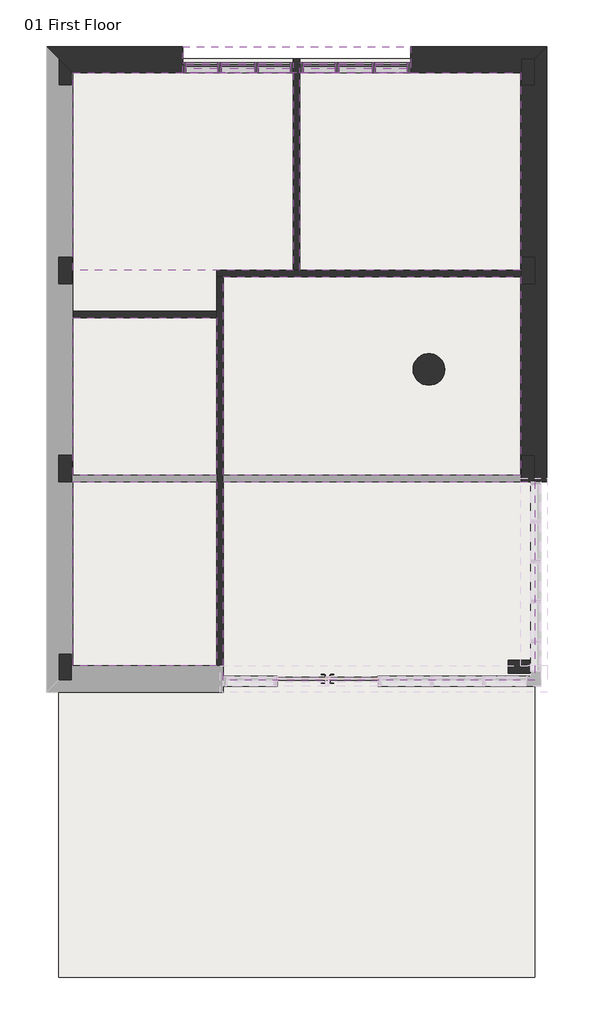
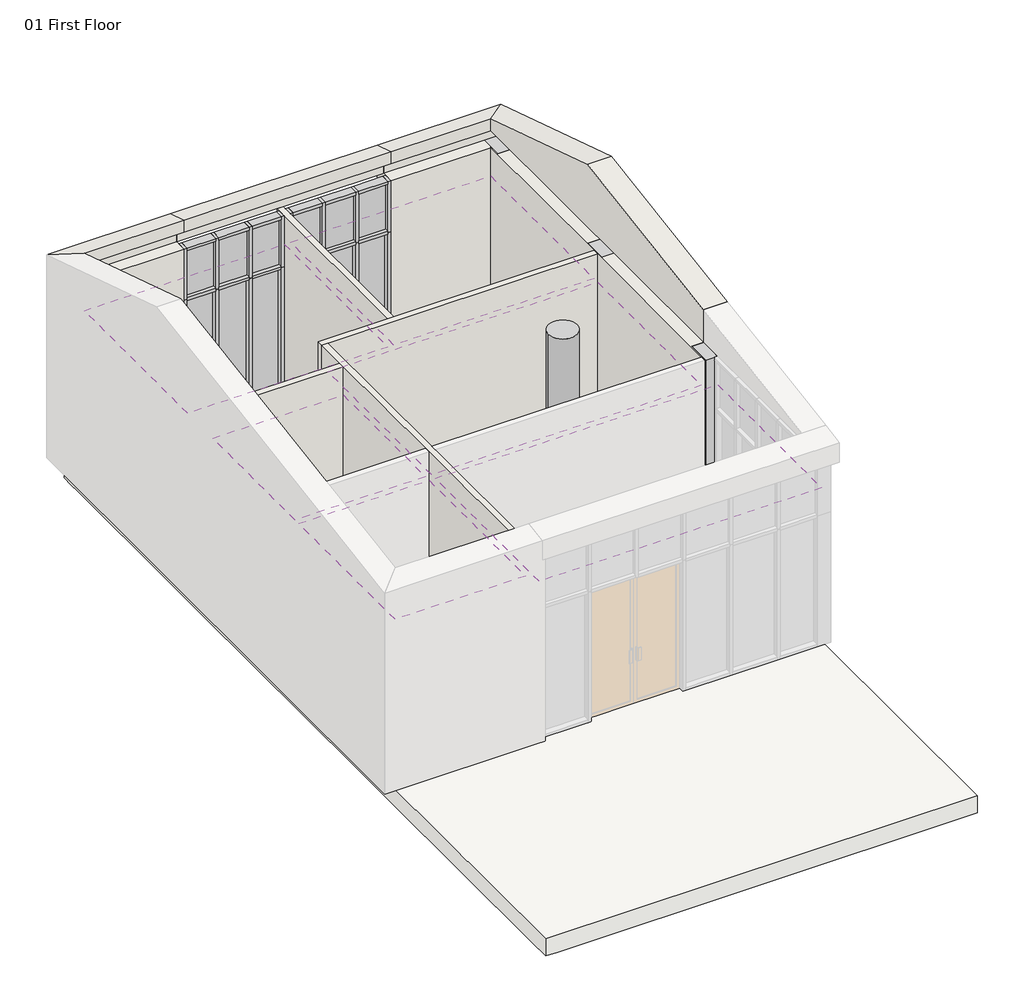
# One storey, part 2 of 2: 34 members, 12 plates, 9 columns, 8 walls, 6 coverings, 1 slab.
"""IFC4 building model written with IfcOpenShell, lengths in millimetres."""

from ifc_helpers import new_model, si_unit, point, frame, frame_2d, origin, place, context, project, spatial, polyline, circle_curve, trimmed, segment, composite_curve, outline, extrude, faceted_brep, transform, mapped, element, save
from components import rectangular_mullion_50_x_150mm_8753ce05, rectangular_mullion_50_x_150mm_f70f74d1, rectangular_mullion_50_x_150mm_d1e66009, rectangular_mullion_50_x_150mm_6b054e58, rectangular_mullion_50_x_150mm_158f91f9, rectangular_mullion_50_x_150mm_7e1a8c17, rectangular_mullion_50_x_150mm_3ddb3363, rectangular_mullion_50_x_150mm_35d6a770, system_panel_glazed_5d80e23d, system_panel_glazed_623b0429, system_panel_solid_e171d4ab, system_panel_solid_d5224606

model = new_model("IFC4")

# Units and contexts
model_context = context("Model", 3, world=origin())
ifc_project = project(units=[si_unit("LENGTHUNIT", "METRE", prefix="MILLI")], contexts=[model_context])

# Site, building, storey
site = spatial("IfcSite", under=ifc_project)
building = spatial("IfcBuilding", under=site)
storey = spatial("IfcBuildingStorey", under=building, Name="01 First Floor", Elevation=3500.0)

# Columns
placement = place(None, origin())
element("IfcColumn", 1, ObjectType="M_Concrete-Rectangular-Column : 200 x 325mm", at=placement, inside=storey, context=model_context, shape_type="SweptSolid", body=[
    extrude(outline(polyline([(-1522.5407999, -2762.7101648), (-1197.5407999, -2762.7101648), (-1197.5407999, -2962.7101648), (-1522.5407999, -2962.7101648), (-1522.5407999, -2762.7101648)])), frame((0.0, 0.0, 3500.0), z_axis=(0.0, 0.0, 1.0), x_axis=(1.0, 0.0, 0.0)), (0.0, 0.0, 1.0), 3200.0),
])
element("IfcColumn", 2, ObjectType="M_Concrete-Rectangular-Column : 200 x 400mm", at=placement, inside=storey, context=model_context, shape_type="Brep", body=[
    faceted_brep([(-8122.5407999, 6337.2898352, 3500.0), (-8122.5407999, 6137.2898352, 3500.0), (-8122.5407999, 5937.2898352, 3500.0), (-8322.5407999, 5937.2898352, 3500.0), (-8322.5407999, 6337.2898352, 3500.0), (-8122.5407999, 6337.2898352, 6700.0), (-8122.5407999, 6137.2898352, 6700.0), (-8122.5407999, 5937.2898352, 6700.0), (-8322.5407999, 5937.2898352, 6700.0), (-8322.5407999, 6337.2898352, 6700.0)], [[[0, 1, 2, 3, 4]], [[2, 1, 0, 5, 6, 7]], [[3, 2, 7, 8]], [[4, 3, 8, 9]], [[0, 4, 9, 5]], [[7, 6, 5, 9, 8]]]),
])
element("IfcColumn", 3, ObjectType="M_Concrete-Rectangular-Column : 200 x 400mm", at=placement, inside=storey, context=model_context, shape_type="SweptSolid", body=[
    extrude(outline(polyline([(-8122.5407999, 3337.2898352), (-8122.5407999, 2937.2898352), (-8322.5407999, 2937.2898352), (-8322.5407999, 3337.2898352), (-8122.5407999, 3337.2898352)])), frame((0.0, 0.0, 3500.0), z_axis=(0.0, 0.0, 1.0), x_axis=(1.0, 0.0, 0.0)), (0.0, 0.0, 1.0), 3200.0),
])
element("IfcColumn", 4, ObjectType="M_Concrete-Rectangular-Column : 200 x 400mm", at=placement, inside=storey, context=model_context, shape_type="SweptSolid", body=[
    extrude(outline(polyline([(-8122.5407999, 337.2898352), (-8122.5407999, -62.7101648), (-8322.5407999, -62.7101648), (-8322.5407999, 337.2898352), (-8122.5407999, 337.2898352)])), frame((0.0, 0.0, 3500.0), z_axis=(0.0, 0.0, 1.0), x_axis=(1.0, 0.0, 0.0)), (0.0, 0.0, 1.0), 3200.0),
])
element("IfcColumn", 5, ObjectType="M_Concrete-Rectangular-Column : 200 x 400mm", at=placement, inside=storey, context=model_context, shape_type="Brep", body=[
    faceted_brep([(-8122.5407999, -2662.7101648, 3500.0), (-8122.5407999, -2862.7101648, 3500.0), (-8122.5407999, -3062.7101648, 3500.0), (-8322.5407999, -3062.7101648, 3500.0), (-8322.5407999, -2662.7101648, 3500.0), (-8122.5407999, -2662.7101648, 6700.0), (-8122.5407999, -2862.7101648, 6700.0), (-8122.5407999, -3062.7101648, 6700.0), (-8322.5407999, -3062.7101648, 6700.0), (-8322.5407999, -2662.7101648, 6700.0)], [[[0, 1, 2, 3, 4]], [[2, 1, 0, 5, 6, 7]], [[3, 2, 7, 8]], [[4, 3, 8, 9]], [[0, 4, 9, 5]], [[7, 6, 5, 9, 8]]]),
])
element("IfcColumn", 6, ObjectType="M_Concrete-Rectangular-Column : 200 x 400mm", at=placement, inside=storey, context=model_context, shape_type="Brep", body=[
    faceted_brep([(-1122.5407999, 337.2898352, 3500.0), (-1122.5407999, -62.7101648, 3500.0), (-1322.5407999, -62.7101648, 3500.0), (-1322.5407999, 337.2898352, 3500.0), (-1122.5407999, 337.2898352, 6700.0), (-1122.5407999, -12.7101648, 6700.0), (-1122.5407999, -62.7101648, 6700.0), (-1322.5407999, -62.7101648, 6700.0), (-1322.5407999, 337.2898352, 6700.0)], [[[0, 1, 2, 3]], [[1, 0, 4, 5, 6]], [[2, 1, 6, 7]], [[3, 2, 7, 8]], [[0, 3, 8, 4]], [[6, 5, 4, 8, 7]]]),
])
element("IfcColumn", 7, ObjectType="M_Concrete-Rectangular-Column : 200 x 400mm", at=placement, inside=storey, context=model_context, shape_type="Brep", body=[
    faceted_brep([(-1122.5407999, 6337.2898352, 3500.0), (-1122.5407999, 5937.2898352, 3500.0), (-1322.5407999, 5937.2898352, 3500.0), (-1322.5407999, 6137.2898352, 3500.0), (-1322.5407999, 6337.2898352, 3500.0), (-1122.5407999, 6337.2898352, 6700.0), (-1122.5407999, 5937.2898352, 6700.0), (-1322.5407999, 5937.2898352, 6700.0), (-1322.5407999, 6137.2898352, 6700.0), (-1322.5407999, 6337.2898352, 6700.0)], [[[0, 1, 2, 3, 4]], [[1, 0, 5, 6]], [[2, 1, 6, 7]], [[4, 3, 2, 7, 8, 9]], [[0, 4, 9, 5]], [[6, 5, 9, 8, 7]]]),
])
element("IfcColumn", 8, ObjectType="M_Concrete-Rectangular-Column : 200 x 400mm", at=placement, inside=storey, context=model_context, shape_type="SweptSolid", body=[
    extrude(outline(polyline([(-1122.5407999, 3337.2898352), (-1122.5407999, 2937.2898352), (-1322.5407999, 2937.2898352), (-1322.5407999, 3337.2898352), (-1122.5407999, 3337.2898352)])), frame((0.0, 0.0, 3500.0), z_axis=(0.0, 0.0, 1.0), x_axis=(1.0, 0.0, 0.0)), (0.0, 0.0, 1.0), 3200.0),
])
element("IfcColumn", 9, ObjectType="M_Concrete-Round-Column : 480mm", at=placement, inside=storey, context=model_context, shape_type="SweptSolid", body=[
    extrude(outline(composite_curve([segment(trimmed(circle_curve(frame_2d((-2722.5407999, 1637.2898352)), 240.0), [point((-2962.5407999, 1637.2898352))], [point((-2482.5407999, 1637.2898352))], False, "CARTESIAN"), True, "CONTINUOUS"), segment(trimmed(circle_curve(frame_2d((-2722.5407999, 1637.2898352)), 240.0), [point((-2482.5407999, 1637.2898352))], [point((-2962.5407999, 1637.2898352))], False, "CARTESIAN"), True, "CONTINUOUS")], self_intersect=False)), frame((0.0, 0.0, 3500.0), z_axis=(0.0, 0.0, 1.0), x_axis=(1.0, 0.0, 0.0)), (0.0, 0.0, 1.0), 3200.0),
])

# Coverings
element("IfcCovering", 10, ObjectType="600 x 600mm Grid", at=placement, inside=storey, context=model_context, shape_type="SweptSolid", body=[
    extrude(outline(polyline([(-1122.5407999, -62.7101648), (-1122.5407999, -3062.7101648), (-5832.5407999, -3062.7101648), (-5832.5407999, -62.7101648), (-1122.5407999, -62.7101648)])), frame((0.0, 0.0, 6200.0), z_axis=(0.0, 0.0, 1.0), x_axis=(1.0, 0.0, 0.0)), (0.0, 0.0, 1.0), 52.0),
])
element("IfcCovering", 11, ObjectType="600 x 600mm Grid", at=placement, inside=storey, context=model_context, shape_type="SweptSolid", body=[
    extrude(outline(polyline([(-5832.5407999, 3037.2898352), (-1335.5407999, 3037.6532062), (-1335.5407999, 37.2898352), (-5832.5407999, 37.2898352), (-5832.5407999, 3037.2898352)])), frame((0.0, 0.0, 6200.0), z_axis=(0.0, 0.0, 1.0), x_axis=(1.0, 0.0, 0.0)), (0.0, 0.0, 1.0), 52.0),
])
element("IfcCovering", 12, ObjectType="600 x 600mm Grid", at=placement, inside=storey, context=model_context, shape_type="SweptSolid", body=[
    extrude(outline(polyline([(-2997.5407999, 6124.2898352), (-1335.5407999, 6124.2898352), (-1335.5407999, 3137.6532065), (-4672.5407999, 3137.383567), (-4672.5407999, 6124.2898352), (-2997.5407999, 6124.2898352)])), frame((0.0, 0.0, 6200.0), z_axis=(0.0, 0.0, 1.0), x_axis=(1.0, 0.0, 0.0)), (0.0, 0.0, 1.0), 52.0),
])
element("IfcCovering", 13, ObjectType="600 x 600mm Grid", at=placement, inside=storey, context=model_context, shape_type="SweptSolid", body=[
    extrude(outline(polyline([(-4772.5407999, 6124.2898352), (-4772.5407999, 3137.3754867), (-8109.5407999, 3137.3754867), (-8109.5407999, 6124.2898352), (-4772.5407999, 6124.2898352)])), frame((0.0, 0.0, 6200.0), z_axis=(0.0, 0.0, 1.0), x_axis=(1.0, 0.0, 0.0)), (0.0, 0.0, 1.0), 52.0),
])
element("IfcCovering", 14, ObjectType="600 x 600mm Grid", at=placement, inside=storey, context=model_context, shape_type="SweptSolid", body=[
    extrude(outline(polyline([(-5932.5407999, 37.2898352), (-8109.5407999, 37.2898352), (-8109.5407999, 2415.8732706), (-5932.5407999, 2415.8732706), (-5932.5407999, 37.2898352)])), frame((0.0, 0.0, 6200.0), z_axis=(0.0, 0.0, 1.0), x_axis=(1.0, 0.0, 0.0)), (0.0, 0.0, 1.0), 52.0),
])
element("IfcCovering", 15, ObjectType="600 x 600mm Grid", at=placement, inside=storey, context=model_context, shape_type="SweptSolid", body=[
    extrude(outline(polyline([(-5932.5407999, -2849.7101648), (-8109.5407999, -2849.7101648), (-8109.5407999, -62.7101648), (-5932.5407999, -62.7101648), (-5932.5407999, -2849.7101648)])), frame((0.0, 0.0, 6200.0), z_axis=(0.0, 0.0, 1.0), x_axis=(1.0, 0.0, 0.0)), (0.0, 0.0, 1.0), 52.0),
])

# Members
rectangular_mullion_50_x_150mm_shape = rectangular_mullion_50_x_150mm_8753ce05(model_context)
element("IfcMember", 16, ObjectType="Rectangular Mullion : 50 x 150mm", at=placement, inside=storey, context=model_context, shape_type="MappedRepresentation", body=[
    mapped(rectangular_mullion_50_x_150mm_shape, transform((-4772.5407999, 6199.2898352, 3500.0), x_axis=(1.0, 0.0, 0.0), y_axis=(0.0, -1.0, 0.0), z_axis=(0.0, 0.0, -1.0))),
])
element("IfcMember", 17, ObjectType="Rectangular Mullion : 50 x 150mm", at=placement, inside=storey, context=model_context, shape_type="MappedRepresentation", body=[
    mapped(rectangular_mullion_50_x_150mm_shape, transform((-2997.5407999, 6199.2898352, 3500.0), x_axis=(1.0, 0.0, 0.0), y_axis=(0.0, -1.0, 0.0), z_axis=(0.0, 0.0, -1.0))),
])
element("IfcMember", 18, ObjectType="Rectangular Mullion : 50 x 150mm", at=placement, inside=storey, context=model_context, shape_type="MappedRepresentation", body=[
    mapped(rectangular_mullion_50_x_150mm_shape, transform((-6447.5407999, 6199.2898352, 5800.0), x_axis=(-1.0, 0.0, 0.0), y_axis=(0.0, -1.0, 0.0), z_axis=(0.0, 0.0, 1.0))),
])
element("IfcMember", 19, ObjectType="Rectangular Mullion : 50 x 150mm", at=placement, inside=storey, context=model_context, shape_type="MappedRepresentation", body=[
    mapped(rectangular_mullion_50_x_150mm_shape, transform((-4672.5407999, 6199.2898352, 5800.0), x_axis=(-1.0, 0.0, 0.0), y_axis=(0.0, -1.0, 0.0), z_axis=(0.0, 0.0, 1.0))),
])
rectangular_mullion_50_x_150mm_2_shape = rectangular_mullion_50_x_150mm_f70f74d1(model_context)
element("IfcMember", 20, ObjectType="Rectangular Mullion : 50 x 150mm", at=placement, inside=storey, context=model_context, shape_type="MappedRepresentation", body=[
    mapped(rectangular_mullion_50_x_150mm_2_shape, transform((-5889.2074665, 6199.2898352, 3500.0), x_axis=(1.0, 0.0, 0.0), y_axis=(0.0, -1.0, 0.0), z_axis=(0.0, 0.0, -1.0))),
])
element("IfcMember", 21, ObjectType="Rectangular Mullion : 50 x 150mm", at=placement, inside=storey, context=model_context, shape_type="MappedRepresentation", body=[
    mapped(rectangular_mullion_50_x_150mm_2_shape, transform((-5330.8741334, 6199.2898352, 3500.0), x_axis=(1.0, 0.0, 0.0), y_axis=(0.0, -1.0, 0.0), z_axis=(0.0, 0.0, -1.0))),
])
element("IfcMember", 22, ObjectType="Rectangular Mullion : 50 x 150mm", at=placement, inside=storey, context=model_context, shape_type="MappedRepresentation", body=[
    mapped(rectangular_mullion_50_x_150mm_2_shape, transform((-4114.2074665, 6199.2898352, 3500.0), x_axis=(1.0, 0.0, 0.0), y_axis=(0.0, -1.0, 0.0), z_axis=(0.0, 0.0, -1.0))),
])
element("IfcMember", 23, ObjectType="Rectangular Mullion : 50 x 150mm", at=placement, inside=storey, context=model_context, shape_type="MappedRepresentation", body=[
    mapped(rectangular_mullion_50_x_150mm_2_shape, transform((-3555.8741334, 6199.2898352, 3500.0), x_axis=(1.0, 0.0, 0.0), y_axis=(0.0, -1.0, 0.0), z_axis=(0.0, 0.0, -1.0))),
])
rectangular_mullion_50_x_150mm_3_shape = rectangular_mullion_50_x_150mm_d1e66009(model_context)
element("IfcMember", 24, ObjectType="Rectangular Mullion : 50 x 150mm", at=placement, inside=storey, context=model_context, shape_type="MappedRepresentation", body=[
    mapped(rectangular_mullion_50_x_150mm_3_shape, transform((-4822.5407999, 6199.2898352, 6700.0), x_axis=(0.0, 0.0, 1.0), y_axis=(0.0, -1.0, 0.0), z_axis=(1.0, 0.0, 0.0))),
])
element("IfcMember", 25, ObjectType="Rectangular Mullion : 50 x 150mm", at=placement, inside=storey, context=model_context, shape_type="MappedRepresentation", body=[
    mapped(rectangular_mullion_50_x_150mm_3_shape, transform((-5914.2074665, 6199.2898352, 6700.0), x_axis=(0.0, 0.0, 1.0), y_axis=(0.0, -1.0, 0.0), z_axis=(1.0, 0.0, 0.0))),
])
element("IfcMember", 26, ObjectType="Rectangular Mullion : 50 x 150mm", at=placement, inside=storey, context=model_context, shape_type="MappedRepresentation", body=[
    mapped(rectangular_mullion_50_x_150mm_3_shape, transform((-3047.5407999, 6199.2898352, 6700.0), x_axis=(0.0, 0.0, 1.0), y_axis=(0.0, -1.0, 0.0), z_axis=(1.0, 0.0, 0.0))),
])
element("IfcMember", 27, ObjectType="Rectangular Mullion : 50 x 150mm", at=placement, inside=storey, context=model_context, shape_type="MappedRepresentation", body=[
    mapped(rectangular_mullion_50_x_150mm_3_shape, transform((-4139.2074665, 6199.2898352, 6700.0), x_axis=(0.0, 0.0, 1.0), y_axis=(0.0, -1.0, 0.0), z_axis=(1.0, 0.0, 0.0))),
])
rectangular_mullion_50_x_150mm_4_shape = rectangular_mullion_50_x_150mm_6b054e58(model_context)
element("IfcMember", 28, ObjectType="Rectangular Mullion : 50 x 150mm", at=placement, inside=storey, context=model_context, shape_type="MappedRepresentation", body=[
    mapped(rectangular_mullion_50_x_150mm_4_shape, transform((-5355.8741334, 6199.2898352, 6700.0), x_axis=(0.0, 0.0, 1.0), y_axis=(0.0, -1.0, 0.0), z_axis=(1.0, 0.0, 0.0))),
])
element("IfcMember", 29, ObjectType="Rectangular Mullion : 50 x 150mm", at=placement, inside=storey, context=model_context, shape_type="MappedRepresentation", body=[
    mapped(rectangular_mullion_50_x_150mm_4_shape, transform((-3580.8741334, 6199.2898352, 6700.0), x_axis=(0.0, 0.0, 1.0), y_axis=(0.0, -1.0, 0.0), z_axis=(1.0, 0.0, 0.0))),
])
element("IfcMember", 30, ObjectType="Rectangular Mullion : 50 x 150mm", at=placement, inside=storey, context=model_context, shape_type="MappedRepresentation", body=[
    mapped(rectangular_mullion_50_x_150mm_3_shape, transform((-6397.5407999, 6199.2898352, 3500.0), x_axis=(0.0, 0.0, -1.0), y_axis=(0.0, -1.0, 0.0), z_axis=(-1.0, 0.0, 0.0))),
])
element("IfcMember", 31, ObjectType="Rectangular Mullion : 50 x 150mm", at=placement, inside=storey, context=model_context, shape_type="MappedRepresentation", body=[
    mapped(rectangular_mullion_50_x_150mm_3_shape, transform((-5305.8741334, 6199.2898352, 3500.0), x_axis=(0.0, 0.0, -1.0), y_axis=(0.0, -1.0, 0.0), z_axis=(-1.0, 0.0, 0.0))),
])
element("IfcMember", 32, ObjectType="Rectangular Mullion : 50 x 150mm", at=placement, inside=storey, context=model_context, shape_type="MappedRepresentation", body=[
    mapped(rectangular_mullion_50_x_150mm_3_shape, transform((-4622.5407999, 6199.2898352, 3500.0), x_axis=(0.0, 0.0, -1.0), y_axis=(0.0, -1.0, 0.0), z_axis=(-1.0, 0.0, 0.0))),
])
element("IfcMember", 33, ObjectType="Rectangular Mullion : 50 x 150mm", at=placement, inside=storey, context=model_context, shape_type="MappedRepresentation", body=[
    mapped(rectangular_mullion_50_x_150mm_3_shape, transform((-3530.8741334, 6199.2898352, 3500.0), x_axis=(0.0, 0.0, -1.0), y_axis=(0.0, -1.0, 0.0), z_axis=(-1.0, 0.0, 0.0))),
])
element("IfcMember", 34, ObjectType="Rectangular Mullion : 50 x 150mm", at=placement, inside=storey, context=model_context, shape_type="MappedRepresentation", body=[
    mapped(rectangular_mullion_50_x_150mm_4_shape, transform((-5864.2074665, 6199.2898352, 3500.0), x_axis=(0.0, 0.0, -1.0), y_axis=(0.0, -1.0, 0.0), z_axis=(-1.0, 0.0, 0.0))),
])
element("IfcMember", 35, ObjectType="Rectangular Mullion : 50 x 150mm", at=placement, inside=storey, context=model_context, shape_type="MappedRepresentation", body=[
    mapped(rectangular_mullion_50_x_150mm_4_shape, transform((-4089.2074665, 6199.2898352, 3500.0), x_axis=(0.0, 0.0, -1.0), y_axis=(0.0, -1.0, 0.0), z_axis=(-1.0, 0.0, 0.0))),
])
rectangular_mullion_50_x_150mm_5_shape = rectangular_mullion_50_x_150mm_158f91f9(model_context)
element("IfcMember", 36, ObjectType="Rectangular Mullion : 50 x 150mm", at=placement, inside=storey, context=model_context, shape_type="MappedRepresentation", body=[
    mapped(rectangular_mullion_50_x_150mm_5_shape, transform((-5914.2074665, 6199.2898352, 5800.0), x_axis=(0.0, 0.0, 1.0), y_axis=(0.0, -1.0, 0.0), z_axis=(1.0, 0.0, 0.0))),
])
element("IfcMember", 37, ObjectType="Rectangular Mullion : 50 x 150mm", at=placement, inside=storey, context=model_context, shape_type="MappedRepresentation", body=[
    mapped(rectangular_mullion_50_x_150mm_5_shape, transform((-4822.5407999, 6199.2898352, 5800.0), x_axis=(0.0, 0.0, 1.0), y_axis=(0.0, -1.0, 0.0), z_axis=(1.0, 0.0, 0.0))),
])
element("IfcMember", 38, ObjectType="Rectangular Mullion : 50 x 150mm", at=placement, inside=storey, context=model_context, shape_type="MappedRepresentation", body=[
    mapped(rectangular_mullion_50_x_150mm_5_shape, transform((-4139.2074665, 6199.2898352, 5800.0), x_axis=(0.0, 0.0, 1.0), y_axis=(0.0, -1.0, 0.0), z_axis=(1.0, 0.0, 0.0))),
])
element("IfcMember", 39, ObjectType="Rectangular Mullion : 50 x 150mm", at=placement, inside=storey, context=model_context, shape_type="MappedRepresentation", body=[
    mapped(rectangular_mullion_50_x_150mm_5_shape, transform((-3047.5407999, 6199.2898352, 5800.0), x_axis=(0.0, 0.0, 1.0), y_axis=(0.0, -1.0, 0.0), z_axis=(1.0, 0.0, 0.0))),
])
rectangular_mullion_50_x_150mm_6_shape = rectangular_mullion_50_x_150mm_7e1a8c17(model_context)
element("IfcMember", 40, ObjectType="Rectangular Mullion : 50 x 150mm", at=placement, inside=storey, context=model_context, shape_type="MappedRepresentation", body=[
    mapped(rectangular_mullion_50_x_150mm_6_shape, transform((-5355.8741334, 6199.2898352, 5800.0), x_axis=(0.0, 0.0, 1.0), y_axis=(0.0, -1.0, 0.0), z_axis=(1.0, 0.0, 0.0))),
])
element("IfcMember", 41, ObjectType="Rectangular Mullion : 50 x 150mm", at=placement, inside=storey, context=model_context, shape_type="MappedRepresentation", body=[
    mapped(rectangular_mullion_50_x_150mm_6_shape, transform((-3580.8741334, 6199.2898352, 5800.0), x_axis=(0.0, 0.0, 1.0), y_axis=(0.0, -1.0, 0.0), z_axis=(1.0, 0.0, 0.0))),
])
rectangular_mullion_50_x_150mm_7_shape = rectangular_mullion_50_x_150mm_3ddb3363(model_context)
element("IfcMember", 42, ObjectType="Rectangular Mullion : 50 x 150mm", at=placement, inside=storey, context=model_context, shape_type="MappedRepresentation", body=[
    mapped(rectangular_mullion_50_x_150mm_7_shape, transform((-5889.2074665, 6199.2898352, 5800.0), x_axis=(1.0, 0.0, 0.0), y_axis=(0.0, -1.0, 0.0), z_axis=(0.0, 0.0, -1.0))),
])
element("IfcMember", 43, ObjectType="Rectangular Mullion : 50 x 150mm", at=placement, inside=storey, context=model_context, shape_type="MappedRepresentation", body=[
    mapped(rectangular_mullion_50_x_150mm_7_shape, transform((-5330.8741334, 6199.2898352, 5800.0), x_axis=(1.0, 0.0, 0.0), y_axis=(0.0, -1.0, 0.0), z_axis=(0.0, 0.0, -1.0))),
])
element("IfcMember", 44, ObjectType="Rectangular Mullion : 50 x 150mm", at=placement, inside=storey, context=model_context, shape_type="MappedRepresentation", body=[
    mapped(rectangular_mullion_50_x_150mm_7_shape, transform((-4114.2074665, 6199.2898352, 5800.0), x_axis=(1.0, 0.0, 0.0), y_axis=(0.0, -1.0, 0.0), z_axis=(0.0, 0.0, -1.0))),
])
element("IfcMember", 45, ObjectType="Rectangular Mullion : 50 x 150mm", at=placement, inside=storey, context=model_context, shape_type="MappedRepresentation", body=[
    mapped(rectangular_mullion_50_x_150mm_7_shape, transform((-3555.8741334, 6199.2898352, 5800.0), x_axis=(1.0, 0.0, 0.0), y_axis=(0.0, -1.0, 0.0), z_axis=(0.0, 0.0, -1.0))),
])
rectangular_mullion_50_x_150mm_8_shape = rectangular_mullion_50_x_150mm_35d6a770(model_context)
element("IfcMember", 46, ObjectType="Rectangular Mullion : 50 x 150mm", at=placement, inside=storey, context=model_context, shape_type="MappedRepresentation", body=[
    mapped(rectangular_mullion_50_x_150mm_8_shape, transform((-4772.5407999, 6199.2898352, 5800.0), x_axis=(1.0, 0.0, 0.0), y_axis=(0.0, -1.0, 0.0), z_axis=(0.0, 0.0, -1.0))),
])
element("IfcMember", 47, ObjectType="Rectangular Mullion : 50 x 150mm", at=placement, inside=storey, context=model_context, shape_type="MappedRepresentation", body=[
    mapped(rectangular_mullion_50_x_150mm_8_shape, transform((-2997.5407999, 6199.2898352, 5800.0), x_axis=(1.0, 0.0, 0.0), y_axis=(0.0, -1.0, 0.0), z_axis=(0.0, 0.0, -1.0))),
])
element("IfcMember", 48, ObjectType="Rectangular Mullion : 50 x 150mm", at=placement, inside=storey, context=model_context, shape_type="MappedRepresentation", body=[
    mapped(rectangular_mullion_50_x_150mm_8_shape, transform((-6447.5407999, 6199.2898352, 6700.0), x_axis=(-1.0, 0.0, 0.0), y_axis=(0.0, -1.0, 0.0), z_axis=(0.0, 0.0, 1.0))),
])
element("IfcMember", 49, ObjectType="Rectangular Mullion : 50 x 150mm", at=placement, inside=storey, context=model_context, shape_type="MappedRepresentation", body=[
    mapped(rectangular_mullion_50_x_150mm_8_shape, transform((-4672.5407999, 6199.2898352, 6700.0), x_axis=(-1.0, 0.0, 0.0), y_axis=(0.0, -1.0, 0.0), z_axis=(0.0, 0.0, 1.0))),
])

# Plates
system_panel_glazed_shape = system_panel_glazed_5d80e23d(model_context)
element("IfcPlate", 50, ObjectType="System Panel : Glazed", at=placement, inside=storey, context=model_context, shape_type="MappedRepresentation", body=[
    mapped(system_panel_glazed_shape, transform((-6155.8741332, 6199.2898352, 3550.0), x_axis=(1.0, 0.0, 0.0), y_axis=(0.0, 1.0, 0.0), z_axis=(0.0, 0.0, 1.0))),
])
element("IfcPlate", 51, ObjectType="System Panel : Glazed", at=placement, inside=storey, context=model_context, shape_type="MappedRepresentation", body=[
    mapped(system_panel_glazed_shape, transform((-5064.2074667, 6199.2898352, 3550.0), x_axis=(1.0, 0.0, 0.0), y_axis=(0.0, 1.0, 0.0), z_axis=(0.0, 0.0, 1.0))),
])
element("IfcPlate", 52, ObjectType="System Panel : Glazed", at=placement, inside=storey, context=model_context, shape_type="MappedRepresentation", body=[
    mapped(system_panel_glazed_shape, transform((-4380.8741332, 6199.2898352, 3550.0), x_axis=(1.0, 0.0, 0.0), y_axis=(0.0, 1.0, 0.0), z_axis=(0.0, 0.0, 1.0))),
])
element("IfcPlate", 53, ObjectType="System Panel : Glazed", at=placement, inside=storey, context=model_context, shape_type="MappedRepresentation", body=[
    mapped(system_panel_glazed_shape, transform((-3289.2074667, 6199.2898352, 3550.0), x_axis=(1.0, 0.0, 0.0), y_axis=(0.0, 1.0, 0.0), z_axis=(0.0, 0.0, 1.0))),
])
system_panel_glazed_2_shape = system_panel_glazed_623b0429(model_context)
element("IfcPlate", 54, ObjectType="System Panel : Glazed", at=placement, inside=storey, context=model_context, shape_type="MappedRepresentation", body=[
    mapped(system_panel_glazed_2_shape, transform((-5610.0407999, 6199.2898352, 3550.0), x_axis=(1.0, 0.0, 0.0), y_axis=(0.0, 1.0, 0.0), z_axis=(0.0, 0.0, 1.0))),
])
element("IfcPlate", 55, ObjectType="System Panel : Glazed", at=placement, inside=storey, context=model_context, shape_type="MappedRepresentation", body=[
    mapped(system_panel_glazed_2_shape, transform((-3835.0407999, 6199.2898352, 3550.0), x_axis=(1.0, 0.0, 0.0), y_axis=(0.0, 1.0, 0.0), z_axis=(0.0, 0.0, 1.0))),
])
system_panel_solid_shape = system_panel_solid_e171d4ab(model_context)
element("IfcPlate", 56, ObjectType="System Panel : Solid", at=placement, inside=storey, context=model_context, shape_type="MappedRepresentation", body=[
    mapped(system_panel_solid_shape, transform((-6155.8741332, 6199.2898352, 5825.0), x_axis=(1.0, 0.0, 0.0), y_axis=(0.0, 1.0, 0.0), z_axis=(0.0, 0.0, 1.0))),
])
element("IfcPlate", 57, ObjectType="System Panel : Solid", at=placement, inside=storey, context=model_context, shape_type="MappedRepresentation", body=[
    mapped(system_panel_solid_shape, transform((-5064.2074667, 6199.2898352, 5825.0), x_axis=(1.0, 0.0, 0.0), y_axis=(0.0, 1.0, 0.0), z_axis=(0.0, 0.0, 1.0))),
])
element("IfcPlate", 58, ObjectType="System Panel : Solid", at=placement, inside=storey, context=model_context, shape_type="MappedRepresentation", body=[
    mapped(system_panel_solid_shape, transform((-4380.8741332, 6199.2898352, 5825.0), x_axis=(1.0, 0.0, 0.0), y_axis=(0.0, 1.0, 0.0), z_axis=(0.0, 0.0, 1.0))),
])
element("IfcPlate", 59, ObjectType="System Panel : Solid", at=placement, inside=storey, context=model_context, shape_type="MappedRepresentation", body=[
    mapped(system_panel_solid_shape, transform((-3289.2074667, 6199.2898352, 5825.0), x_axis=(1.0, 0.0, 0.0), y_axis=(0.0, 1.0, 0.0), z_axis=(0.0, 0.0, 1.0))),
])
system_panel_solid_2_shape = system_panel_solid_d5224606(model_context)
element("IfcPlate", 60, ObjectType="System Panel : Solid", at=placement, inside=storey, context=model_context, shape_type="MappedRepresentation", body=[
    mapped(system_panel_solid_2_shape, transform((-5610.0407999, 6199.2898352, 5825.0), x_axis=(1.0, 0.0, 0.0), y_axis=(0.0, 1.0, 0.0), z_axis=(0.0, 0.0, 1.0))),
])
element("IfcPlate", 61, ObjectType="System Panel : Solid", at=placement, inside=storey, context=model_context, shape_type="MappedRepresentation", body=[
    mapped(system_panel_solid_2_shape, transform((-3835.0407999, 6199.2898352, 5825.0), x_axis=(1.0, 0.0, 0.0), y_axis=(0.0, 1.0, 0.0), z_axis=(0.0, 0.0, 1.0))),
])

# Slab
element("IfcSlab", 62, ObjectType="Generic 300mm", at=placement, inside=storey, context=model_context, shape_type="Brep", body=[
    faceted_brep([(-8322.5407999, 6337.2898352, 3200.0), (-8122.5407999, 6337.2898352, 3200.0), (-1322.5407999, 6337.2898352, 3200.0), (-1300.0407999, 6337.2898352, 3200.0), (-1122.5407999, 6337.2898352, 3200.0), (-1122.5407999, 5937.2898352, 3200.0), (-1122.5407999, 3337.2898352, 3200.0), (-1122.5407999, 2937.2898352, 3200.0), (-1122.5407999, 337.2898352, 3200.0), (-1122.5407999, -62.7101648, 3200.0), (-1122.5407999, -2749.7101648, 3200.0), (-1122.5407999, -2762.7101648, 3200.0), (-1122.5407999, -2962.7101648, 3200.0), (-1122.5407999, -3147.7101648, 3200.0), (-1122.5407999, -7162.7101648, 3200.0), (-1122.5407999, -7562.7101648, 3200.0), (-1322.5407999, -7562.7101648, 3200.0), (-8122.5407999, -7562.7101648, 3200.0), (-8322.5407999, -7562.7101648, 3200.0), (-8322.5407999, -7162.7101648, 3200.0), (-8322.5407999, -3062.7101648, 3200.0), (-8322.5407999, -2662.7101648, 3200.0), (-8322.5407999, -62.7101648, 3200.0), (-8322.5407999, 337.2898352, 3200.0), (-8322.5407999, 2937.2898352, 3200.0), (-8322.5407999, 3337.2898352, 3200.0), (-8322.5407999, 5937.2898352, 3200.0), (-8322.5407999, 6124.2898352, 3200.0), (-8322.5407999, 6337.2898352, 3500.0), (-8322.5407999, 6124.2898352, 3500.0), (-8322.5407999, 5937.2898352, 3500.0), (-8322.5407999, 3337.2898352, 3500.0), (-8322.5407999, 2937.2898352, 3500.0), (-8322.5407999, 337.2898352, 3500.0), (-8322.5407999, -62.7101648, 3500.0), (-8322.5407999, -2662.7101648, 3500.0), (-8322.5407999, -3062.7101648, 3500.0), (-8322.5407999, -7562.7101648, 3500.0), (-1122.5407999, -7562.7101648, 3500.0), (-1122.5407999, -3147.7101648, 3500.0), (-1122.5407999, -62.7101648, 3500.0), (-1122.5407999, 337.2898352, 3500.0), (-1122.5407999, 2937.2898352, 3500.0), (-1122.5407999, 3337.2898352, 3500.0), (-1122.5407999, 5937.2898352, 3500.0), (-1122.5407999, 6337.2898352, 3500.0), (-1300.0407999, 6337.2898352, 3500.0), (-1322.5407999, 6337.2898352, 3500.0), (-8122.5407999, 6337.2898352, 3500.0)], [[[0, 1, 2, 3, 4, 5, 6, 7, 8, 9, 10, 11, 12, 13, 14, 15, 16, 17, 18, 19, 20, 21, 22, 23, 24, 25, 26, 27]], [[28, 29, 30, 31, 32, 33, 34, 35, 36, 37, 38, 39, 40, 41, 42, 43, 44, 45, 46, 47, 48]], [[4, 3, 2, 1, 0, 28, 48, 47, 46, 45]], [[15, 14, 13, 12, 11, 10, 9, 8, 7, 6, 5, 4, 45, 44, 43, 42, 41, 40, 39, 38]], [[18, 17, 16, 15, 38, 37]], [[0, 27, 26, 25, 24, 23, 22, 21, 20, 19, 18, 37, 36, 35, 34, 33, 32, 31, 30, 29, 28]]]),
])

# Walls
element("IfcWall", 63, ObjectType="Exterior - Brick on CMU", at=placement, inside=storey, context=model_context, shape_type="Brep", body=[
    faceted_brep([(-937.5407999, -62.7101648, 3500.0), (-937.5407999, 6522.2898352, 3500.0), (-937.5407999, 6522.2898352, 7084.4927536), (-937.5407999, 3337.2898352, 8100.0), (-937.5407999, -12.7101648, 7562.0437956), (-937.5407999, -12.7101648, 6700.0), (-937.5407999, -62.7101648, 6700.0), (-1335.5407999, 6124.2898352, 3500.0), (-1335.5407999, 3137.6532065, 3500.0), (-1335.5407999, 3037.6532062, 3500.0), (-1335.5407999, 37.2898352, 3500.0), (-1335.5407999, -62.7101648, 3500.0), (-1335.5407999, -62.7101648, 6700.0), (-1335.5407999, 37.2898352, 6700.0), (-1335.5407999, 3037.6532062, 6700.0), (-1335.5407999, 3137.6532065, 6700.0), (-1335.5407999, 6124.2898352, 6700.0), (-1335.5407999, -12.7101648, 7562.0437956), (-1335.5407999, 3337.2898352, 8100.0), (-1335.5407999, 6124.2898352, 7211.3913043), (-1335.5407999, 6124.2898352, 7000.0), (-1335.5407999, -12.7101648, 7000.0), (-1122.5407999, -62.7101648, 3500.0), (-1122.5407999, 337.2898352, 3500.0), (-1322.5407999, 337.2898352, 3500.0), (-1322.5407999, -62.7101648, 3500.0), (-1322.5407999, 6137.2898352, 3500.0), (-1322.5407999, 5937.2898352, 3500.0), (-1122.5407999, 5937.2898352, 3500.0), (-1122.5407999, 6337.2898352, 3500.0), (-1122.5407999, 2937.2898352, 3500.0), (-1122.5407999, 3337.2898352, 3500.0), (-1322.5407999, 3337.2898352, 3500.0), (-1322.5407999, 2937.2898352, 3500.0), (-1122.5407999, 5937.2898352, 6700.0), (-1122.5407999, 3337.2898352, 6700.0), (-1122.5407999, 2937.2898352, 6700.0), (-1122.5407999, 337.2898352, 6700.0), (-1122.5407999, -62.7101648, 6700.0), (-1122.5407999, -12.7101648, 6700.0), (-1122.5407999, -12.7101648, 7000.0), (-1122.5407999, 6337.2898352, 7000.0), (-1322.5407999, 2937.2898352, 6700.0), (-1322.5407999, 3337.2898352, 6700.0), (-1330.5407999, -12.7101648, 7000.0), (-1322.5407999, 337.2898352, 6700.0), (-1322.5407999, -62.7101648, 6700.0), (-1322.5407999, 5937.2898352, 6700.0), (-1322.5407999, 6137.2898352, 6700.0), (-1330.5407999, -12.7101648, 7562.0437956)], [[[0, 1, 2, 3, 4, 5, 6]], [[7, 8, 9, 10, 11, 12, 13, 14, 15, 16]], [[17, 18, 19, 20, 21]], [[1, 0, 22, 23, 24, 25, 11, 10, 9, 8, 7, 26, 27, 28, 29], [30, 31, 32, 33]], [[29, 28, 34, 35, 31, 30, 36, 37, 23, 22, 38, 39, 40, 41]], [[30, 33, 42, 36]], [[33, 32, 43, 42]], [[32, 31, 35, 43]], [[41, 40, 44, 21, 20]], [[25, 24, 45, 46]], [[24, 23, 37, 45]], [[28, 27, 47, 34]], [[27, 26, 48, 47]], [[2, 1, 29, 41, 20, 19]], [[26, 7, 16, 48]], [[4, 49, 17, 21, 44, 40, 39, 5]], [[6, 5, 39, 38]], [[12, 46, 45, 37, 36, 42, 43, 35, 34, 47, 48, 16, 15, 14, 13]], [[0, 6, 38, 22]], [[12, 11, 25, 46]], [[17, 49, 4, 3, 18]], [[2, 19, 18, 3]]]),
])
element("IfcWall", 64, ObjectType="Exterior - Brick on CMU", at=placement, inside=storey, context=model_context, shape_type="Brep", body=[
    faceted_brep([(-937.5407999, 6522.2898352, 3500.0), (-1122.5407999, 6522.2898352, 3500.0), (-1300.0407999, 6522.2898352, 3500.0), (-2997.5407999, 6522.2898352, 3500.0), (-2997.5407999, 6522.2898352, 6700.0), (-2997.5407999, 6522.2898352, 7084.4927536), (-937.5407999, 6522.2898352, 7084.4927536), (-2997.5407999, 6124.2898352, 3500.0), (-1335.5407999, 6124.2898352, 3500.0), (-1335.5407999, 6124.2898352, 6700.0), (-2997.5407999, 6124.2898352, 6700.0), (-2997.5407999, 6124.2898352, 7000.0), (-1335.5407999, 6124.2898352, 7000.0), (-1335.5407999, 6124.2898352, 7211.3913043), (-2997.5407999, 6124.2898352, 7211.3913043), (-1122.5407999, 6337.2898352, 3500.0), (-1300.0407999, 6337.2898352, 3500.0), (-1322.5407999, 6337.2898352, 3500.0), (-1322.5407999, 6137.2898352, 3500.0), (-2997.5407999, 6337.2898352, 6700.0), (-2997.5407999, 6337.2898352, 7000.0), (-1322.5407999, 6137.2898352, 7000.0), (-1122.5407999, 6337.2898352, 7000.0), (-1322.5407999, 6137.2898352, 6700.0), (-1322.5407999, 6337.2898352, 6700.0)], [[[0, 1, 2, 3, 4, 5, 6]], [[7, 8, 9, 10]], [[11, 12, 13, 14]], [[3, 2, 1, 0, 15, 16, 17, 18, 8, 7]], [[5, 4, 3, 7, 10, 19, 20, 11, 14]], [[0, 6, 13, 12, 21, 22, 15]], [[9, 8, 18, 23]], [[10, 9, 23, 24, 19]], [[12, 11, 20, 22, 21]], [[20, 19, 24, 17, 16, 15, 22]], [[5, 14, 13, 6]], [[17, 24, 23, 18]]]),
])
element("IfcWall", 65, ObjectType="Exterior - Brick on CMU", at=placement, inside=storey, context=model_context, shape_type="Brep", body=[
    faceted_brep([(-8109.5407999, 6124.2898352, 3500.0), (-6447.5407999, 6124.2898352, 3500.0), (-6447.5407999, 6124.2898352, 6700.0), (-8109.5407999, 6124.2898352, 6700.0), (-6447.5407999, 6124.2898352, 7211.3913043), (-8109.5407999, 6124.2898352, 7211.3913043), (-8109.5407999, 6124.2898352, 7000.0), (-6447.5407999, 6124.2898352, 7000.0), (-6447.5407999, 6522.2898352, 3500.0), (-8507.5407999, 6522.2898352, 3500.0), (-8507.5407999, 6522.2898352, 7084.4927536), (-6447.5407999, 6522.2898352, 7084.4927536), (-6447.5407999, 6522.2898352, 6700.0), (-8122.5407999, 6137.2898352, 3500.0), (-8322.5407999, 6337.2898352, 3500.0), (-6447.5407999, 6337.2898352, 7000.0), (-6447.5407999, 6337.2898352, 6700.0), (-8122.5407999, 6137.2898352, 6700.0), (-8322.5407999, 6337.2898352, 6700.0), (-8322.5407999, 6337.2898352, 7000.0)], [[[0, 1, 2, 3]], [[4, 5, 6, 7]], [[8, 9, 10, 11, 12]], [[1, 0, 13, 14, 9, 8]], [[8, 12, 11, 4, 7, 15, 16, 2, 1]], [[10, 9, 14, 13, 0, 3, 17, 18, 19, 6, 5]], [[16, 18, 17, 3, 2]], [[19, 15, 7, 6]], [[18, 16, 15, 19]], [[5, 4, 11, 10]]]),
])
element("IfcWall", 66, ObjectType="Exterior - Brick on CMU", at=placement, inside=storey, context=model_context, shape_type="SweptSolid", body=[
    extrude(outline(polyline([(6522.2898352, 7084.4927536), (6522.2898352, 6700.0), (6337.2898352, 6700.0), (6337.2898352, 7000.0), (6124.2898352, 7000.0), (6124.2898352, 7211.3913043), (6522.2898352, 7084.4927536)])), frame((-6447.5407999, 0.0, 0.0), z_axis=(1.0, 0.0, 0.0), x_axis=(0.0, 1.0, 0.0)), (0.0, 0.0, 1.0), 3450.0),
])
element("IfcWall", 67, ObjectType="Generic - 100mm", at=placement, inside=storey, context=model_context, shape_type="SweptSolid", body=[
    extrude(outline(polyline([(-5932.5407999, 2415.8732706), (-8109.5407999, 2415.8732706), (-8109.5407999, 2515.8732706), (-5932.5407999, 2515.8732706), (-5932.5407999, 2415.8732706)])), frame((0.0, 0.0, 3500.0), z_axis=(0.0, 0.0, 1.0), x_axis=(1.0, 0.0, 0.0)), (0.0, 0.0, 1.0), 3200.0),
])
element("IfcWall", 68, ObjectType="Generic - 100mm", at=placement, inside=storey, context=model_context, shape_type="SweptSolid", body=[
    extrude(outline(polyline([(-4772.5407999, 3137.3754867), (-4772.5407999, 6337.2898352), (-4672.5407999, 6337.2898352), (-4672.5407999, 3137.383567), (-4772.5407999, 3137.3754867)])), frame((0.0, 0.0, 3500.0), z_axis=(0.0, 0.0, 1.0), x_axis=(1.0, 0.0, 0.0)), (0.0, 0.0, 1.0), 3200.0),
])
element("IfcWall", 69, ObjectType="Generic - 100mm", at=placement, inside=storey, context=model_context, shape_type="Brep", body=[
    faceted_brep([(-1335.5407999, 3137.6532065, 3500.0), (-4672.5407999, 3137.383567, 3500.0), (-4772.5407999, 3137.3754867, 3500.0), (-5932.5407999, 3137.2817553, 3500.0), (-5932.5407999, 3137.2817553, 6700.0), (-4772.5407999, 3137.3754867, 6700.0), (-4672.5407999, 3137.383567, 6700.0), (-1335.5407999, 3137.6532065, 6700.0), (-1335.5407999, 3037.6532062, 3500.0), (-1335.5407999, 3037.6532062, 6700.0), (-5832.5407999, 3037.2898352, 6700.0), (-5932.5407999, 3037.2817549, 6700.0), (-5932.5407999, 3037.2817549, 3500.0), (-5832.5407999, 3037.2898352, 3500.0)], [[[0, 1, 2, 3, 4, 5, 6, 7]], [[8, 9, 10, 11, 12, 13]], [[3, 2, 1, 0, 8, 13, 12]], [[0, 7, 9, 8]], [[4, 3, 12, 11]], [[7, 6, 5, 4, 11, 10, 9]]]),
])
element("IfcWall", 70, ObjectType="Generic - 100mm", at=placement, inside=storey, context=model_context, shape_type="Brep", body=[
    faceted_brep([(-5932.5407999, 3037.2817549, 3500.0), (-5932.5407999, 2515.8732706, 3500.0), (-5932.5407999, 2415.8732706, 3500.0), (-5932.5407999, 37.2898352, 3500.0), (-5932.5407999, -62.7101648, 3500.0), (-5932.5407999, -2849.7101648, 3500.0), (-5932.5407999, -2849.7101648, 6700.0), (-5932.5407999, -62.7101648, 6700.0), (-5932.5407999, 37.2898352, 6700.0), (-5932.5407999, 2415.8732706, 6700.0), (-5932.5407999, 2515.8732706, 6700.0), (-5932.5407999, 3037.2817549, 6700.0), (-5832.5407999, 3037.2898352, 3500.0), (-5832.5407999, 3037.2898352, 6700.0), (-5832.5407999, 37.2898352, 6700.0), (-5832.5407999, -62.7101648, 6700.0), (-5832.5407999, -2849.7101648, 6700.0), (-5832.5407999, -2849.7101648, 3500.0), (-5832.5407999, -62.7101648, 3500.0), (-5832.5407999, 37.2898352, 3500.0)], [[[0, 1, 2, 3, 4, 5, 6, 7, 8, 9, 10, 11]], [[12, 13, 14, 15, 16, 17, 18, 19]], [[5, 4, 3, 2, 1, 0, 12, 19, 18, 17]], [[0, 11, 13, 12]], [[6, 5, 17, 16]], [[11, 10, 9, 8, 7, 6, 16, 15, 14, 13]]]),
])

save(model, "model.ifc")
